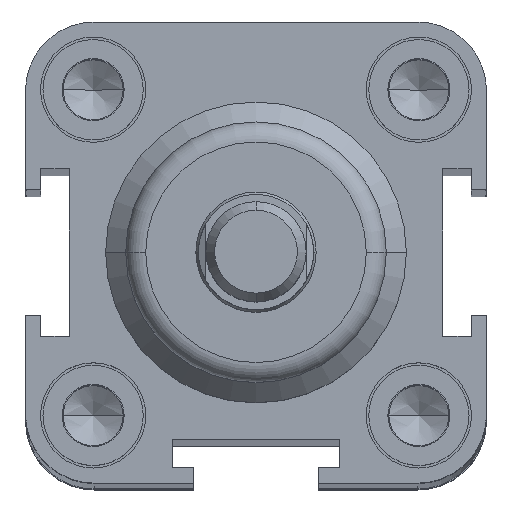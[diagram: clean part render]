
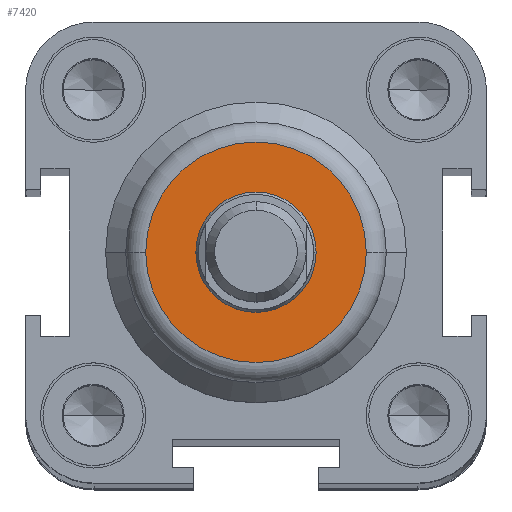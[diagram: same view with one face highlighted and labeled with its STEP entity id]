
A CAD part, top view. The second image highlights one B-rep face of the part: STEP entity #7420.
In plain terms, the highlighted planar face has unit normal (0, 0, 1).
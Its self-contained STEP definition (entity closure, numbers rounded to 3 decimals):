
#1472=CARTESIAN_POINT('',(-11.,0.0,213.0));
#1473=VERTEX_POINT('',#1472);
#1481=CARTESIAN_POINT('',(11.,0.,213.0));
#1482=VERTEX_POINT('',#1481);
#1483=CARTESIAN_POINT('',(0.0,0.0,213.0));
#1484=DIRECTION('',(0.0,0.0,-1.0));
#1485=DIRECTION('',(-1.0,0.0,0.0));
#1486=AXIS2_PLACEMENT_3D('',#1483,#1484,#1485);
#1487=CIRCLE('',#1486,11.);
#1488=EDGE_CURVE('',#1473,#1482,#1487,.T.);
#1593=CARTESIAN_POINT('',(6.,0.0,213.0));
#1594=VERTEX_POINT('',#1593);
#1610=CARTESIAN_POINT('',(-6.,0.,213.0));
#1611=VERTEX_POINT('',#1610);
#1618=CARTESIAN_POINT('',(0.0,0.0,213.0));
#1619=DIRECTION('',(0.0,0.0,-1.0));
#1620=DIRECTION('',(1.0,0.0,0.0));
#1621=AXIS2_PLACEMENT_3D('',#1618,#1619,#1620);
#1622=CIRCLE('',#1621,6.);
#1623=EDGE_CURVE('',#1594,#1611,#1622,.T.);
#7347=CARTESIAN_POINT('',(0.0,0.0,213.0));
#7348=DIRECTION('',(0.0,0.0,-1.0));
#7349=DIRECTION('',(1.0,0.0,0.0));
#7350=AXIS2_PLACEMENT_3D('',#7347,#7348,#7349);
#7351=CIRCLE('',#7350,6.);
#7352=EDGE_CURVE('',#1611,#1594,#7351,.T.);
#7401=CARTESIAN_POINT('',(-5.5,0.0,213.0));
#7402=DIRECTION('',(0.0,0.0,1.0));
#7403=DIRECTION('',(1.0,0.0,0.0));
#7404=AXIS2_PLACEMENT_3D('',#7401,#7402,#7403);
#7405=PLANE('',#7404);
#7406=ORIENTED_EDGE('',*,*,#1488,.F.);
#7407=CARTESIAN_POINT('',(0.0,0.0,213.0));
#7408=DIRECTION('',(0.0,0.0,-1.0));
#7409=DIRECTION('',(-1.0,0.0,0.0));
#7410=AXIS2_PLACEMENT_3D('',#7407,#7408,#7409);
#7411=CIRCLE('',#7410,11.);
#7412=EDGE_CURVE('',#1482,#1473,#7411,.T.);
#7413=ORIENTED_EDGE('',*,*,#7412,.F.);
#7414=EDGE_LOOP('',(#7406,#7413));
#7415=FACE_OUTER_BOUND('',#7414,.T.);
#7416=ORIENTED_EDGE('',*,*,#1623,.T.);
#7417=ORIENTED_EDGE('',*,*,#7352,.T.);
#7418=EDGE_LOOP('',(#7416,#7417));
#7419=FACE_BOUND('',#7418,.T.);
#7420=ADVANCED_FACE('',(#7415,#7419),#7405,.T.);
